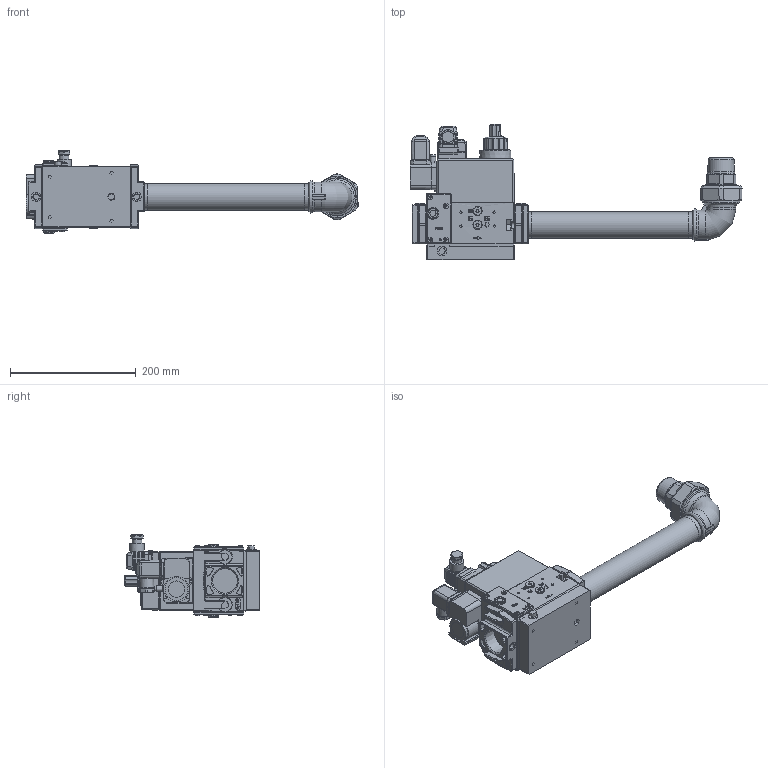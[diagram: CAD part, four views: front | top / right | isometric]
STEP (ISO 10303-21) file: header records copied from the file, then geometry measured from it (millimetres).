
FILE_DESCRIPTION (( 'STEP AP214' ), '1' );
FILE_NAME ('19990547.STEP', '2024-09-06T14:08:20', ( '' ), ( '' ), 'SwSTEP 2.0', 'SolidWorks 2021', '' );
FILE_SCHEMA (( 'AUTOMOTIVE_DESIGN' ));
Length unit declared in the file: millimetre
Products named in the file (9): 0006020480-106620; 23521-133483; 19990547; 31341-03516; 23905-112382; 23905-112383-AUTO; 23239-03493; 0005040038-03745; 23522-04272
Assembly tree (9 placements, depth 3):
  19990547
    23905-112382
      23905-112383-AUTO
      0005040038-03745
      23521-133483
      23522-04272
    23239-03493
    0006020480-106620
    31341-03516  x2
Bounding box: 528.3 x 215 x 130.5 mm (x, y, z)
Volume: 642825.9 mm3; surface area: 336439.4 mm2
Topology: 7 solids, 10 shells, 3186 faces, 8083 edges, 5119 vertices
Faces by surface type: plane 1494, bspline 816, cylinder 625, cone 129, torus 111, sphere 11
Full cylindrical faces by diameter (mm): 2 x1, 2.459 x1, 2.5 x2, 3 x1, 4 x1, 7 x1, 8 x5, 9 x1, 10.6 x1, 13 x1, 14 x2, 15 x9, 15.2 x1, 18 x1, 22.5 x2, 26 x1, 35.9 x1, 36.15 x1, 38.952 x1, 41.91 x2, 42.4 x1, 52.7 x1, 53 x1, 59.61 x1
Entity records: 128184 total; most frequent: CARTESIAN_POINT 61715, ORIENTED_EDGE 14071, DIRECTION 9823, EDGE_CURVE 7043, VERTEX_POINT 4565, VECTOR 3775, LINE 3775, EDGE_LOOP 3215
